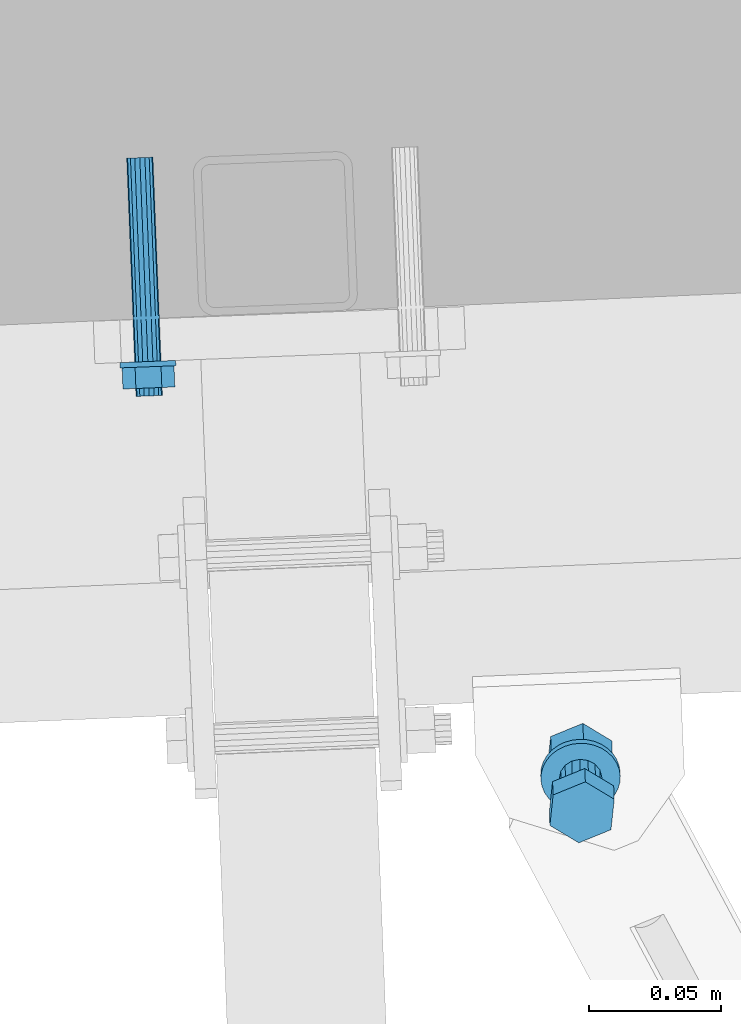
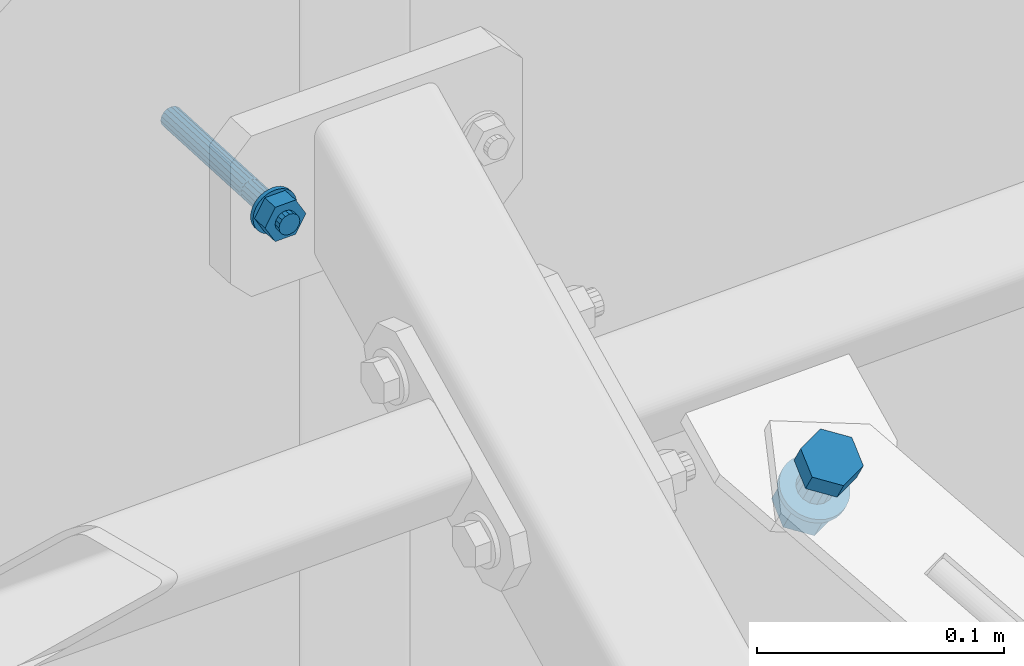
# One storey, part 259 of 288: 2 mechanical fasteners.
"""IFC2X3 building model written with IfcOpenShell, lengths in millimetres."""

import ifcopenshell
import ifcopenshell.guid

model = None  # the IFC model being written
_history = None  # IfcOwnerHistory: only IFC2X3 demands one
_inside = {}  # id of a spatial element -> (the spatial element, [elements in it])
_under = {}  # id of a project, library or spatial element -> (it, [spatial elements below it])
_declared = {}  # id of a project -> (the project, [libraries it declares])
_typed = {}  # id of a type object -> (the type object, [elements of that type])
_made_of = {}  # id of a material, layer set ... -> (it, [elements and type objects made of it])


def new_model(schema):
    """Start an empty IFC model of exactly this schema.

    Asked for "IFC4X3", IfcOpenShell would pick the latest addendum, in which some entities
    have other attributes; the version numbers below select the first issue.
    IFC2X3 requires an IfcOwnerHistory on every rooted entity: one is made here for all.
    """
    global model, _history
    if schema == "IFC4X3":
        model = ifcopenshell.file(schema_version=(4, 3, 0, 0))
    else:
        model = ifcopenshell.file(schema=schema)
    _inside.clear()
    _under.clear()
    _declared.clear()
    _typed.clear()
    _made_of.clear()
    _history = None
    if model.schema == "IFC2X3":
        org = make("IfcOrganization", Name="unknown")
        user = make(
            "IfcPersonAndOrganization",
            ThePerson=make("IfcPerson", FamilyName="unknown"),
            TheOrganization=org,
        )
        app = make(
            "IfcApplication",
            ApplicationDeveloper=org,
            Version="unknown",
            ApplicationFullName="unknown",
            ApplicationIdentifier="unknown",
        )
        _history = make(
            "IfcOwnerHistory",
            OwningUser=user,
            OwningApplication=app,
            ChangeAction="ADDED",
            CreationDate=0,
        )
    return model


def make(cls, **values):
    """One entity of the class cls with the attributes given. An attribute that is None is left unset."""
    return model.create_entity(
        cls, **{name: value for name, value in values.items() if value is not None}
    )


def entity(cls, *values):
    """Any entity or typed value of the class cls, its attributes in the order of the schema. None: left unset."""
    e = model.create_entity(cls)
    for i, value in enumerate(values):
        if value is not None:
            e[i] = value
    return e


def rooted(cls, **values):
    """An entity with a GlobalId (a new one), such as an element, a storey or a relation."""
    return make(cls, GlobalId=ifcopenshell.guid.new(), OwnerHistory=_history, **values)


def si_unit(unit_type, name, prefix=None):
    """IfcSIUnit, for example si_unit("LENGTHUNIT", "METRE", prefix="MILLI")."""
    return make("IfcSIUnit", UnitType=unit_type, Prefix=prefix, Name=name)


def converted_unit(unit_type, name, factor, base, dimensions=None, offset=None):
    """IfcConversionBasedUnit, such as the inch: factor (a typed value) times the base unit."""
    return make(
        "IfcConversionBasedUnit"
        if offset is None
        else "IfcConversionBasedUnitWithOffset",
        ConversionOffset=offset,
        Dimensions=None
        if dimensions is None
        else entity("IfcDimensionalExponents", *dimensions),
        UnitType=unit_type,
        Name=name,
        ConversionFactor=make(
            "IfcMeasureWithUnit", ValueComponent=factor, UnitComponent=base
        ),
    )


def assignment(units):
    """IfcUnitAssignment: the units of a project."""
    return None if units is None else make("IfcUnitAssignment", Units=units)


def point(xyz):
    """IfcCartesianPoint."""
    return None if xyz is None else make("IfcCartesianPoint", Coordinates=xyz)


def direction(xyz):
    """IfcDirection."""
    return None if xyz is None else make("IfcDirection", DirectionRatios=xyz)


def frame(location, z_axis=None, x_axis=None):
    """IfcAxis2Placement3D, a coordinate frame: its origin and axes. An axis left out is left unset."""
    return make(
        "IfcAxis2Placement3D",
        Location=point(location),
        Axis=direction(z_axis),
        RefDirection=direction(x_axis),
    )


def origin_with_axes():
    """The frame at (0, 0, 0) with the z axis (0, 0, 1) and the x axis (1, 0, 0) written out."""
    return frame((0.0, 0.0, 0.0), z_axis=(0.0, 0.0, 1.0), x_axis=(1.0, 0.0, 0.0))


def place(relative_to, where):
    """IfcLocalPlacement: puts the frame where relative to a parent placement (None: the world)."""
    return make(
        "IfcLocalPlacement", PlacementRelTo=relative_to, RelativePlacement=where
    )


def context(
    kind, dimensions, precision=None, world=None, true_north=None, identifier=None
):
    """IfcGeometricRepresentationContext, for example the 3D "Model" context."""
    return make(
        "IfcGeometricRepresentationContext",
        ContextIdentifier=identifier,
        ContextType=kind,
        CoordinateSpaceDimension=dimensions,
        Precision=precision,
        WorldCoordinateSystem=world,
        TrueNorth=true_north,
    )


def project(units=None, contexts=None):
    """IfcProject with its units and contexts."""
    return rooted(
        "IfcProject",
        Name="project",
        RepresentationContexts=contexts,
        UnitsInContext=assignment(units),
    )


def spatial(cls, under=None, at=None, **own):
    """A site, building, storey or space (cls), placed at a placement, below another one or the project."""
    s = rooted(cls, ObjectPlacement=at, **own)
    if under is not None:
        _under.setdefault(under.id(), (under, []))[1].append(s)
    return s


def faces_of(points, faces, orient=None, outer=None):
    """IfcFace entities. A face is a list of loops; a loop is a list of indices into points, from 0.

    orient and outer hold one flag for each loop. By default every Orientation is true, the
    first loop of a face is its IfcFaceOuterBound and the others are IfcFaceBound.
    """
    made = []
    for i, loops in enumerate(faces):
        bounds = []
        for j, loop in enumerate(loops):
            is_outer = j == 0 if outer is None else outer[i][j]
            bounds.append(
                make(
                    "IfcFaceOuterBound" if is_outer else "IfcFaceBound",
                    Bound=make("IfcPolyLoop", Polygon=[points[k] for k in loop]),
                    Orientation=True if orient is None else orient[i][j],
                )
            )
        made.append(make("IfcFace", Bounds=bounds))
    return made


def faceted_brep(points, faces, orient=None, outer=None, voids=None):
    """IfcFacetedBrep: a solid bounded by flat faces; with voids (closed shells), ...WithVoids."""
    shared = [point(p) for p in points]
    hull = make("IfcClosedShell", CfsFaces=faces_of(shared, faces, orient, outer))
    if voids is None:
        return make("IfcFacetedBrep", Outer=hull)
    return make(
        "IfcFacetedBrepWithVoids",
        Outer=hull,
        Voids=[
            make(cls, CfsFaces=faces_of(shared, fs, o, b)) for cls, fs, o, b in voids
        ],
    )


def shape(context_of_items, identifier, shape_type, items):
    """IfcShapeRepresentation: the items that make up one representation, for example the "Body"."""
    return make(
        "IfcShapeRepresentation",
        ContextOfItems=context_of_items,
        RepresentationIdentifier=identifier,
        RepresentationType=shape_type,
        Items=items,
    )


def made_of(thing, what):
    """Note that an element or type object is made of a material, layer set ...; save() writes the relation."""
    if what is not None:
        _made_of.setdefault(what.id(), (what, []))[1].append(thing)
    return thing


def element(
    cls,
    number,
    at=None,
    inside=None,
    cuts=None,
    type_object=None,
    material=None,
    context=None,
    identifier="Body",
    shape_type=None,
    held_by="IfcProductDefinitionShape",
    body=None,
    shapes=None,
    **own,
):
    """One element of the class cls, such as IfcWall. Its Tag is "e" and its number.

    at: its placement. inside: the storey or other place that contains it. cuts: it is an
    opening in that element (IfcRelVoidsElement). A single representation is given by context,
    identifier, shape_type and body (its items); several are given by shapes. held_by: the class
    of the entity that holds the representations. save() writes the other relations.
    """
    e = rooted(cls, Tag="e%d" % number, ObjectPlacement=at, **own)
    if body is not None:
        shapes = [shape(context, identifier, shape_type, body)]
    if shapes is not None:
        e.Representation = make(held_by, Representations=shapes)
    if inside is not None:
        _inside.setdefault(inside.id(), (inside, []))[1].append(e)
    if cuts is not None:
        rooted(
            "IfcRelVoidsElement", RelatingBuildingElement=cuts, RelatedOpeningElement=e
        )
    if type_object is not None:
        _typed.setdefault(type_object.id(), (type_object, []))[1].append(e)
    return made_of(e, material)


def aggregate(whole, parts):
    """IfcRelAggregates: a whole, such as a stair, and the parts it consists of."""
    return rooted("IfcRelAggregates", RelatingObject=whole, RelatedObjects=parts)


def save(model, path):
    """Write the relations noted so far, then the file.

    IfcRelAggregates (storeys below a building ...), IfcRelContainedInSpatialStructure (elements
    in a storey), IfcRelDefinesByType, IfcRelAssociatesMaterial and IfcRelDeclares: one each for
    every whole, place, type object, material and project.
    """
    for whole, parts in _under.values():
        aggregate(whole, parts)
    for where, things in _inside.values():
        rooted(
            "IfcRelContainedInSpatialStructure",
            RelatedElements=things,
            RelatingStructure=where,
        )
    for kind, things in _typed.values():
        rooted("IfcRelDefinesByType", RelatedObjects=things, RelatingType=kind)
    for what, things in _made_of.values():
        rooted("IfcRelAssociatesMaterial", RelatedObjects=things, RelatingMaterial=what)
    for by, libraries in _declared.values():
        rooted("IfcRelDeclares", RelatingContext=by, RelatedDefinitions=libraries)
    model.write(path)


model = new_model("IFC2X3")

# Units and contexts
model_context = context("Model", 3, precision=1e-09, world=origin_with_axes())
ifc_project = project(units=[si_unit("LENGTHUNIT", "METRE", prefix="MILLI"), si_unit("AREAUNIT", "SQUARE_METRE"), si_unit("VOLUMEUNIT", "CUBIC_METRE"), converted_unit("PLANEANGLEUNIT", "DEGREE", entity("IfcPlaneAngleMeasure", 0.01745329), si_unit("PLANEANGLEUNIT", "RADIAN"), dimensions=[0, 0, 0, 0, 0, 0, 0])], contexts=[model_context])

# Site, building, storey
site_placement = place(None, origin_with_axes())
site = spatial("IfcSite", under=ifc_project, at=site_placement, Name="Remont ?wietlik?w nad MC w NCPP w Opolu", CompositionType="ELEMENT")
building_placement = place(site_placement, origin_with_axes())
building = spatial("IfcBuilding", under=site, at=building_placement, Name="Konstrukcja 1", CompositionType="ELEMENT")
storey_placement = place(building_placement, origin_with_axes())
storey = spatial("IfcBuildingStorey", under=building, at=storey_placement, Name="Default Storey", CompositionType="ELEMENT", Elevation=0.0)

# Mechanical fasteners
mechanical_fastener_1_placement = place(None, origin_with_axes())
element("IfcMechanicalFastener", 1, at=mechanical_fastener_1_placement, inside=storey, ObjectType="Anchor_Bolt", NominalDiameter=10.0, NominalLength=90.0, context=model_context, shape_type="Brep", body=[
    faceted_brep([(2305.701875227, 15632.396267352, 1297.284965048), (2305.623089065, 15634.394714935, 1297.284965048), (2303.576230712, 15634.314020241, 1297.083210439), (2303.655016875, 15632.315572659, 1297.083210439), (2301.608031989, 15634.2364266, 1296.485700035), (2301.686818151, 15632.237979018, 1296.485700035), (2299.794129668, 15634.164915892, 1295.515395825), (2299.87291583, 15632.166468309, 1295.515395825), (2298.204230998, 15634.102236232, 1294.209586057), (2298.28301716, 15632.103788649, 1294.209586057), (2296.899434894, 15634.050796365, 1292.618452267), (2296.978221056, 15632.052348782, 1292.618452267), (2295.929883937, 15634.012573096, 1290.803140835), (2296.0086701, 15632.014125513, 1290.803140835), (2295.332837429, 15633.989035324, 1288.83341316), (2295.411623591, 15631.990587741, 1288.83341316), (2295.13123953, 15633.981087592, 1286.784964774), (2295.210025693, 15631.98264001, 1286.784964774), (2295.332837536, 15633.989035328, 1284.736516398), (2295.411623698, 15631.990587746, 1284.736516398), (2295.929884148, 15634.012573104, 1282.766788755), (2296.00867031, 15632.014125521, 1282.766788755), (2296.899435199, 15634.050796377, 1280.951477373), (2296.978221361, 15632.052348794, 1280.951477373), (2298.204231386, 15634.102236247, 1279.360343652), (2298.283017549, 15632.103788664, 1279.360343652), (2299.794130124, 15634.16491591, 1278.054533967), (2299.872916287, 15632.166468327, 1278.054533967), (2301.608032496, 15634.23642662, 1277.084229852), (2301.686818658, 15632.237979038, 1277.084229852), (2303.576231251, 15634.314020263, 1276.486719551), (2303.655017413, 15632.31557268, 1276.486719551), (2305.623089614, 15634.394714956, 1276.284965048), (2305.701875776, 15632.396267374, 1276.284965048), (2307.669947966, 15634.475409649, 1276.486719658), (2307.748734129, 15632.476962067, 1276.486719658), (2309.638146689, 15634.553003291, 1277.084230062), (2309.716932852, 15632.554555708, 1277.084230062), (2311.452049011, 15634.624513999, 1278.054534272), (2311.530835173, 15632.626066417, 1278.054534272), (2313.04194768, 15634.687193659, 1279.36034404), (2313.120733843, 15632.688746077, 1279.36034404), (2314.346743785, 15634.738633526, 1280.95147783), (2314.425529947, 15632.740185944, 1280.95147783), (2315.316294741, 15634.776856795, 1282.766789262), (2315.395080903, 15632.778409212, 1282.766789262), (2315.913341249, 15634.800394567, 1284.736516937), (2315.992127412, 15632.801946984, 1284.736516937), (2316.114939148, 15634.808342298, 1286.784965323), (2316.193725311, 15632.809894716, 1286.784965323), (2315.913341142, 15634.800394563, 1288.833413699), (2315.992127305, 15632.80194698, 1288.833413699), (2315.316294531, 15634.776856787, 1290.803141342), (2315.395080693, 15632.778409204, 1290.803141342), (2314.34674348, 15634.738633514, 1292.618452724), (2314.425529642, 15632.740185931, 1292.618452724), (2313.041947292, 15634.687193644, 1294.209586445), (2313.120733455, 15632.688746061, 1294.209586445), (2311.452048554, 15634.624513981, 1295.51539613), (2311.530834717, 15632.626066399, 1295.51539613), (2309.638146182, 15634.553003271, 1296.485700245), (2309.716932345, 15632.554555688, 1296.485700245), (2307.669947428, 15634.475409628, 1297.083210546), (2307.74873359, 15632.476962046, 1297.083210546)], [[[0, 1, 2, 3]], [[3, 2, 4, 5]], [[5, 4, 6, 7]], [[7, 6, 8, 9]], [[9, 8, 10, 11]], [[11, 10, 12, 13]], [[13, 12, 14, 15]], [[15, 14, 16, 17]], [[17, 16, 18, 19]], [[19, 18, 20, 21]], [[21, 20, 22, 23]], [[23, 22, 24, 25]], [[25, 24, 26, 27]], [[27, 26, 28, 29]], [[29, 28, 30, 31]], [[31, 30, 32, 33]], [[33, 32, 34, 35]], [[35, 34, 36, 37]], [[37, 36, 38, 39]], [[39, 38, 40, 41]], [[41, 40, 42, 43]], [[43, 42, 44, 45]], [[45, 44, 46, 47]], [[47, 46, 48, 49]], [[49, 48, 50, 51]], [[51, 50, 52, 53]], [[53, 52, 54, 55]], [[55, 54, 56, 57]], [[57, 56, 58, 59]], [[59, 58, 60, 61]], [[61, 60, 62, 63]], [[63, 62, 1, 0]], [[0, 3, 5, 7, 9, 11, 13, 15, 17, 19, 21, 23, 25, 27, 29, 31, 33, 35, 37, 39, 41, 43, 45, 47, 49, 51, 53, 55, 57, 59, 61, 63]], [[1, 62, 60, 58, 56, 54, 52, 50, 48, 46, 44, 42, 40, 38, 36, 34, 32, 30, 28, 26, 24, 22, 20, 18, 16, 14, 12, 10, 8, 6, 4, 2]]]),
    faceted_brep([(2300.805679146, 15632.203241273, 1278.297915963), (2301.120823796, 15624.209450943, 1278.297915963), (2296.224626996, 15624.016424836, 1286.784964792), (2295.909482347, 15632.010215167, 1286.784964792), (2301.120823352, 15624.209450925, 1295.272013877), (2300.805678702, 15632.203241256, 1295.272013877), (2310.913216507, 15624.595503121, 1295.272014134), (2310.598071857, 15632.589293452, 1295.272014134), (2315.809413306, 15624.788529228, 1286.784965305), (2315.494268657, 15632.782319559, 1286.784965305), (2310.913216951, 15624.595503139, 1278.29791622), (2310.598072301, 15632.58929347, 1278.29791622)], [[[0, 1, 2, 3]], [[3, 2, 4, 5]], [[5, 4, 6, 7]], [[7, 6, 8, 9]], [[9, 8, 10, 11]], [[11, 10, 1, 0]], [[4, 2, 1, 10, 8, 6]], [[0, 3, 5, 7, 9, 11]]]),
    faceted_brep([(2306.135199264, 15621.404805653, 1291.784965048), (2306.017020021, 15624.402477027, 1291.784965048), (2304.10508808, 15624.32710163, 1291.404362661), (2304.223267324, 15621.329430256, 1291.404362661), (2302.484230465, 15624.263201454, 1290.320498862), (2302.602409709, 15621.26553008, 1290.320498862), (2301.401208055, 15624.220504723, 1288.698382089), (2301.519387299, 15621.222833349, 1288.698382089), (2301.020901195, 15624.205511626, 1286.784964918), (2301.139080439, 15621.207840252, 1286.784964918), (2301.401208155, 15624.220504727, 1284.871547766), (2301.519387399, 15621.222833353, 1284.871547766), (2302.48423065, 15624.263201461, 1283.24943105), (2302.602409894, 15621.265530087, 1283.24943105), (2304.105088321, 15624.327101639, 1282.165567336), (2304.223267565, 15621.329430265, 1282.165567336), (2306.017020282, 15624.402477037, 1281.784965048), (2306.135199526, 15621.404805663, 1281.784965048), (2307.928952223, 15624.477852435, 1282.165567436), (2308.047131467, 15621.480181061, 1282.165567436), (2309.549809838, 15624.54175261, 1283.249431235), (2309.667989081, 15621.544081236, 1283.249431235), (2310.632832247, 15624.584449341, 1284.871548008), (2310.751011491, 15621.586777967, 1284.871548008), (2311.013139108, 15624.599442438, 1286.784965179), (2311.131318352, 15621.601771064, 1286.784965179), (2310.632832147, 15624.584449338, 1288.698382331), (2310.751011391, 15621.586777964, 1288.698382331), (2309.549809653, 15624.541752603, 1290.320499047), (2309.667988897, 15621.544081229, 1290.320499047), (2307.928951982, 15624.477852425, 1291.404362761), (2308.047131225, 15621.480181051, 1291.404362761)], [[[0, 1, 2, 3]], [[3, 2, 4, 5]], [[5, 4, 6, 7]], [[7, 6, 8, 9]], [[9, 8, 10, 11]], [[11, 10, 12, 13]], [[13, 12, 14, 15]], [[15, 14, 16, 17]], [[17, 16, 18, 19]], [[19, 18, 20, 21]], [[21, 20, 22, 23]], [[23, 22, 24, 25]], [[25, 24, 26, 27]], [[27, 26, 28, 29]], [[29, 28, 30, 31]], [[31, 30, 1, 0]], [[0, 3, 5, 7, 9, 11, 13, 15, 17, 19, 21, 23, 25, 27, 29, 31]], [[1, 30, 28, 26, 24, 22, 20, 18, 16, 14, 12, 10, 8, 6, 4, 2]]]),
    faceted_brep([(2305.623089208, 15634.39471494, 1291.784965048), (2304.992799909, 15650.382295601, 1291.784965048), (2303.080867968, 15650.306920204, 1291.404362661), (2303.711157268, 15634.319339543, 1291.404362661), (2301.460010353, 15650.243020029, 1290.320498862), (2302.090299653, 15634.255439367, 1290.320498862), (2300.376987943, 15650.200323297, 1288.698382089), (2301.007277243, 15634.212742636, 1288.698382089), (2299.996681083, 15650.1853302, 1286.784964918), (2300.626970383, 15634.197749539, 1286.784964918), (2300.376988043, 15650.200323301, 1284.871547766), (2301.007277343, 15634.21274264, 1284.871547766), (2301.460010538, 15650.243020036, 1283.24943105), (2302.090299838, 15634.255439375, 1283.24943105), (2303.080868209, 15650.306920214, 1282.165567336), (2303.711157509, 15634.319339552, 1282.165567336), (2304.99280017, 15650.382295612, 1281.784965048), (2305.62308947, 15634.394714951, 1281.784965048), (2306.904732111, 15650.457671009, 1282.165567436), (2307.535021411, 15634.470090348, 1282.165567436), (2308.525589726, 15650.521571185, 1283.249431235), (2309.155879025, 15634.533990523, 1283.249431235), (2309.608612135, 15650.564267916, 1284.871548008), (2310.238901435, 15634.576687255, 1284.871548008), (2309.988918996, 15650.579261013, 1286.784965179), (2310.619208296, 15634.591680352, 1286.784965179), (2309.608612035, 15650.564267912, 1288.698382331), (2310.238901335, 15634.576687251, 1288.698382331), (2308.525589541, 15650.521571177, 1290.320499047), (2309.155878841, 15634.533990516, 1290.320499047), (2306.904731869, 15650.457671, 1291.404362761), (2307.535021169, 15634.470090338, 1291.404362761)], [[[0, 1, 2, 3]], [[3, 2, 4, 5]], [[5, 4, 6, 7]], [[7, 6, 8, 9]], [[9, 8, 10, 11]], [[11, 10, 12, 13]], [[13, 12, 14, 15]], [[15, 14, 16, 17]], [[17, 16, 18, 19]], [[19, 18, 20, 21]], [[21, 20, 22, 23]], [[23, 22, 24, 25]], [[25, 24, 26, 27]], [[27, 26, 28, 29]], [[29, 28, 30, 31]], [[31, 30, 1, 0]], [[0, 3, 5, 7, 9, 11, 13, 15, 17, 19, 21, 23, 25, 27, 29, 31]], [[1, 30, 28, 26, 24, 22, 20, 18, 16, 14, 12, 10, 8, 6, 4, 2]]]),
    faceted_brep([(2304.992799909, 15650.382295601, 1291.784965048), (2304.953406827, 15651.381519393, 1291.784965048), (2303.978712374, 15651.343093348, 1291.688891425), (2304.018105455, 15650.343869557, 1291.688891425), (2303.041474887, 15651.306143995, 1291.404362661), (2303.080867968, 15650.306920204, 1291.404362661), (2302.177711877, 15651.272091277, 1290.942313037), (2302.217104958, 15650.272867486, 1290.942313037), (2301.420617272, 15651.24224382, 1290.320498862), (2301.460010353, 15650.243020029, 1290.320498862), (2300.799285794, 15651.217748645, 1289.562816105), (2300.838678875, 15650.218524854, 1289.562816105), (2300.337594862, 15651.199547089, 1288.698382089), (2300.376987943, 15650.200323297, 1288.698382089), (2300.053287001, 15651.188338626, 1287.76041653), (2300.092680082, 15650.189114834, 1287.76041653), (2299.957288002, 15651.184553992, 1286.784964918), (2299.996681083, 15650.1853302, 1286.784964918), (2300.053287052, 15651.188338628, 1285.80951331), (2300.092680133, 15650.189114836, 1285.80951331), (2300.337594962, 15651.199547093, 1284.871547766), (2300.376988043, 15650.200323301, 1284.871547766), (2300.799285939, 15651.217748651, 1284.007113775), (2300.83867902, 15650.21852486, 1284.007113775), (2301.420617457, 15651.242243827, 1283.24943105), (2301.460010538, 15650.243020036, 1283.24943105), (2302.177712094, 15651.272091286, 1282.627616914), (2302.217105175, 15650.272867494, 1282.627616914), (2303.041475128, 15651.306144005, 1282.165567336), (2303.080868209, 15650.306920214, 1282.165567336), (2303.97871263, 15651.343093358, 1281.881038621), (2304.018105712, 15650.343869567, 1281.881038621), (2304.953407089, 15651.381519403, 1281.784965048), (2304.99280017, 15650.382295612, 1281.784965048), (2305.928101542, 15651.419945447, 1281.881038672), (2305.967494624, 15650.420721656, 1281.881038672), (2306.86533903, 15651.4568948, 1282.165567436), (2306.904732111, 15650.457671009, 1282.165567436), (2307.72910204, 15651.490947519, 1282.62761706), (2307.768495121, 15650.491723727, 1282.62761706), (2308.486196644, 15651.520794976, 1283.249431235), (2308.525589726, 15650.521571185, 1283.249431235), (2309.107528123, 15651.545290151, 1284.007113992), (2309.146921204, 15650.546066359, 1284.007113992), (2309.569219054, 15651.563491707, 1284.871548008), (2309.608612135, 15650.564267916, 1284.871548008), (2309.853526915, 15651.57470017, 1285.809513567), (2309.892919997, 15650.575476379, 1285.809513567), (2309.949525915, 15651.578484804, 1286.784965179), (2309.988918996, 15650.579261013, 1286.784965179), (2309.853526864, 15651.574700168, 1287.760416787), (2309.892919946, 15650.575476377, 1287.760416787), (2309.569218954, 15651.563491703, 1288.698382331), (2309.608612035, 15650.564267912, 1288.698382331), (2309.107527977, 15651.545290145, 1289.562816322), (2309.146921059, 15650.546066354, 1289.562816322), (2308.48619646, 15651.520794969, 1290.320499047), (2308.525589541, 15650.521571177, 1290.320499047), (2307.729101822, 15651.49094751, 1290.942313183), (2307.768494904, 15650.491723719, 1290.942313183), (2306.865338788, 15651.456894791, 1291.404362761), (2306.904731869, 15650.457671, 1291.404362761), (2305.928101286, 15651.419945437, 1291.688891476), (2305.967494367, 15650.420721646, 1291.688891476)], [[[0, 1, 2, 3]], [[3, 2, 4, 5]], [[5, 4, 6, 7]], [[7, 6, 8, 9]], [[9, 8, 10, 11]], [[11, 10, 12, 13]], [[13, 12, 14, 15]], [[15, 14, 16, 17]], [[17, 16, 18, 19]], [[19, 18, 20, 21]], [[21, 20, 22, 23]], [[23, 22, 24, 25]], [[25, 24, 26, 27]], [[27, 26, 28, 29]], [[29, 28, 30, 31]], [[31, 30, 32, 33]], [[33, 32, 34, 35]], [[35, 34, 36, 37]], [[37, 36, 38, 39]], [[39, 38, 40, 41]], [[41, 40, 42, 43]], [[43, 42, 44, 45]], [[45, 44, 46, 47]], [[47, 46, 48, 49]], [[49, 48, 50, 51]], [[51, 50, 52, 53]], [[53, 52, 54, 55]], [[55, 54, 56, 57]], [[57, 56, 58, 59]], [[59, 58, 60, 61]], [[61, 60, 62, 63]], [[63, 62, 1, 0]], [[0, 3, 5, 7, 9, 11, 13, 15, 17, 19, 21, 23, 25, 27, 29, 31, 33, 35, 37, 39, 41, 43, 45, 47, 49, 51, 53, 55, 57, 59, 61, 63]], [[1, 62, 60, 58, 56, 54, 52, 50, 48, 46, 44, 42, 40, 38, 36, 34, 32, 30, 28, 26, 24, 22, 20, 18, 16, 14, 12, 10, 8, 6, 4, 2]]]),
    faceted_brep([(2304.953406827, 15651.381519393, 1291.784965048), (2302.589821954, 15711.334946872, 1291.784965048), (2300.677890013, 15711.259571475, 1291.404362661), (2303.041474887, 15651.306143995, 1291.404362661), (2299.057032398, 15711.195671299, 1290.320498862), (2301.420617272, 15651.24224382, 1290.320498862), (2297.974009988, 15711.152974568, 1288.698382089), (2300.337594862, 15651.199547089, 1288.698382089), (2297.593703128, 15711.137981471, 1286.784964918), (2299.957288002, 15651.184553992, 1286.784964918), (2297.974010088, 15711.152974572, 1284.871547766), (2300.337594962, 15651.199547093, 1284.871547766), (2299.057032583, 15711.195671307, 1283.24943105), (2301.420617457, 15651.242243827, 1283.24943105), (2300.677890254, 15711.259571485, 1282.165567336), (2303.041475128, 15651.306144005, 1282.165567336), (2302.589822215, 15711.334946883, 1281.784965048), (2304.953407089, 15651.381519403, 1281.784965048), (2304.501754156, 15711.41032228, 1282.165567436), (2306.86533903, 15651.4568948, 1282.165567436), (2306.122611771, 15711.474222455, 1283.249431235), (2308.486196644, 15651.520794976, 1283.249431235), (2307.20563418, 15711.516919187, 1284.871548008), (2309.569219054, 15651.563491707, 1284.871548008), (2307.585941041, 15711.531912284, 1286.784965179), (2309.949525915, 15651.578484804, 1286.784965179), (2307.20563408, 15711.516919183, 1288.698382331), (2309.569218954, 15651.563491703, 1288.698382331), (2306.122611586, 15711.474222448, 1290.320499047), (2308.48619646, 15651.520794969, 1290.320499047), (2304.501753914, 15711.41032227, 1291.404362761), (2306.865338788, 15651.456894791, 1291.404362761)], [[[0, 1, 2, 3]], [[3, 2, 4, 5]], [[5, 4, 6, 7]], [[7, 6, 8, 9]], [[9, 8, 10, 11]], [[11, 10, 12, 13]], [[13, 12, 14, 15]], [[15, 14, 16, 17]], [[17, 16, 18, 19]], [[19, 18, 20, 21]], [[21, 20, 22, 23]], [[23, 22, 24, 25]], [[25, 24, 26, 27]], [[27, 26, 28, 29]], [[29, 28, 30, 31]], [[31, 30, 1, 0]], [[0, 3, 5, 7, 9, 11, 13, 15, 17, 19, 21, 23, 25, 27, 29, 31]], [[1, 30, 28, 26, 24, 22, 20, 18, 16, 14, 12, 10, 8, 6, 4, 2]]]),
])
mechanical_fastener_2_placement = place(None, origin_with_axes())
element("IfcMechanicalFastener", 2, at=mechanical_fastener_2_placement, inside=storey, ObjectType="Bolt#1", NominalDiameter=16.0, NominalLength=40.0, context=model_context, shape_type="Brep", body=[
    faceted_brep([(2480.419676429, 15457.677540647, 1205.489921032), (2480.203727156, 15462.712677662, 1196.852747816), (2481.444672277, 15474.23122603, 1203.536588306), (2481.66062155, 15469.196089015, 1212.173761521), (2470.534731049, 15480.793729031, 1207.635046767), (2470.750680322, 15475.758592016, 1216.272219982), (2458.383844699, 15475.837683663, 1205.049664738), (2458.599793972, 15470.802546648, 1213.686837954), (2457.142899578, 15464.319135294, 1198.365824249), (2457.358848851, 15459.283998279, 1207.002997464), (2468.052840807, 15457.756632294, 1194.267365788), (2468.26879008, 15452.721495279, 1202.904539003)], [[[0, 1, 2, 3]], [[3, 2, 4, 5]], [[5, 4, 6, 7]], [[7, 6, 8, 9]], [[9, 8, 10, 11]], [[11, 10, 1, 0]], [[3, 5, 7, 9, 11, 0]], [[2, 1, 10, 8, 6, 4]]]),
    faceted_brep([(2465.609262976, 15483.575347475, 1190.855191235), (2465.954781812, 15475.519128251, 1204.674668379), (2468.990222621, 15476.178248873, 1204.983017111), (2468.644703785, 15484.234468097, 1191.163539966), (2472.071878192, 15475.786439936, 1204.677559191), (2471.726359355, 15483.84265916, 1190.858082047), (2474.730594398, 15474.4033508, 1203.80479782), (2474.385075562, 15482.459570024, 1189.985320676), (2476.5616058, 15472.239544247, 1202.497603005), (2476.216086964, 15480.295763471, 1188.67812586), (2477.28615751, 15469.62444021, 1200.954983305), (2476.940638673, 15477.680659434, 1187.135506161), (2476.793943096, 15466.956164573, 1199.411788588), (2476.44842426, 15475.012383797, 1185.592311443), (2475.159897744, 15464.640938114, 1198.102956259), (2474.814378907, 15472.697157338, 1184.283479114), (2472.632790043, 15463.031233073, 1197.227744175), (2472.287271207, 15471.087452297, 1183.408267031), (2469.597349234, 15462.372112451, 1196.919395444), (2469.251830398, 15470.428331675, 1183.099918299), (2466.515693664, 15462.763921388, 1197.224853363), (2466.170174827, 15470.820140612, 1183.405376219), (2463.856977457, 15464.147010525, 1198.097614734), (2463.51145862, 15472.203229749, 1184.27813759), (2462.025966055, 15466.310817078, 1199.40480955), (2461.680447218, 15474.367036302, 1185.585332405), (2461.301414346, 15468.925921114, 1200.947429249), (2460.955895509, 15476.982140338, 1187.127952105), (2461.793628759, 15471.594196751, 1202.490623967), (2461.448109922, 15479.650415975, 1188.671146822), (2463.427674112, 15473.90942321, 1203.799456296), (2463.082155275, 15481.965642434, 1189.979979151)], [[[0, 1, 2, 3]], [[3, 2, 4, 5]], [[5, 4, 6, 7]], [[7, 6, 8, 9]], [[9, 8, 10, 11]], [[11, 10, 12, 13]], [[13, 12, 14, 15]], [[15, 14, 16, 17]], [[17, 16, 18, 19]], [[19, 18, 20, 21]], [[21, 20, 22, 23]], [[23, 22, 24, 25]], [[25, 24, 26, 27]], [[27, 26, 28, 29]], [[29, 28, 30, 31]], [[31, 30, 1, 0]], [[2, 1, 30, 28, 26, 24, 22, 20, 18, 16, 14, 12, 10, 8, 6, 4]], [[31, 0, 3, 5, 7, 9, 11, 13, 15, 17, 19, 21, 23, 25, 27, 29]]]),
    faceted_brep([(2462.622849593, 15490.54934272, 1191.522068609), (2462.687634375, 15489.038801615, 1194.113220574), (2465.466458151, 15489.898194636, 1194.544736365), (2465.401673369, 15491.40873574, 1191.9535844), (2468.379085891, 15490.274652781, 1194.691374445), (2468.314301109, 15491.785193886, 1192.100222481), (2471.313586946, 15490.153708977, 1194.547499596), (2471.248802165, 15491.664250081, 1191.956347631), (2474.157190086, 15489.540011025, 1194.118640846), (2474.092405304, 15491.050552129, 1191.527488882), (2476.800617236, 15488.457142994, 1193.421278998), (2476.735832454, 15489.967684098, 1190.830127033), (2479.142282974, 15486.946718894, 1192.482213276), (2479.077498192, 15488.457259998, 1189.891061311), (2481.092198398, 15485.066783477, 1191.337531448), (2481.027413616, 15486.577324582, 1188.746379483), (2482.575429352, 15482.889581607, 1190.031222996), (2482.51064457, 15484.400122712, 1187.440071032), (2483.534976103, 15480.498781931, 1188.613488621), (2483.470191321, 15482.009323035, 1186.022336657), (2483.933963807, 15477.986261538, 1187.13881106), (2483.869179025, 15479.496802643, 1184.547659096), (2483.75705959, 15475.44857518, 1185.663861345), (2483.692274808, 15476.959116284, 1183.07270938), (2483.011061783, 15472.983244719, 1184.245320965), (2482.946277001, 15474.493785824, 1181.654169), (2481.724638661, 15470.685011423, 1182.937703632), (2481.65985388, 15472.195552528, 1180.346551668), (2479.947226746, 15468.642195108, 1181.791260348), (2479.882441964, 15470.152736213, 1179.200108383), (2477.747130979, 15466.93330006, 1180.850048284), (2477.682346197, 15468.443841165, 1178.258896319), (2475.208899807, 15465.623998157, 1180.150237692), (2475.144115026, 15467.134539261, 1177.559085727), (2472.430076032, 15464.764605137, 1179.7187219), (2472.36529125, 15466.275146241, 1177.127569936), (2469.517448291, 15464.388146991, 1179.57208382), (2469.452663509, 15465.898688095, 1176.980931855), (2466.582947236, 15464.509090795, 1179.715958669), (2466.518162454, 15466.0196319, 1177.124806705), (2463.739344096, 15465.122788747, 1180.144817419), (2463.674559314, 15466.633329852, 1177.553665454), (2461.095916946, 15466.205656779, 1180.842179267), (2461.031132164, 15467.716197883, 1178.251027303), (2458.754251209, 15467.716080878, 1181.78124499), (2458.689466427, 15469.226621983, 1179.190093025), (2456.804335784, 15469.596016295, 1182.925926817), (2456.739551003, 15471.1065574, 1180.334774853), (2455.32110483, 15471.773218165, 1184.232235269), (2455.256320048, 15473.28375927, 1181.641083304), (2454.361558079, 15474.164017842, 1185.649969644), (2454.296773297, 15475.674558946, 1183.058817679), (2453.962570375, 15476.676538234, 1187.124647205), (2453.897785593, 15478.187079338, 1184.53349524), (2454.139474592, 15479.214224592, 1188.599596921), (2454.07468981, 15480.724765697, 1186.008444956), (2454.8854724, 15481.679555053, 1190.0181373), (2454.820687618, 15483.190096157, 1187.426985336), (2456.171895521, 15483.977788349, 1191.325754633), (2456.107110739, 15485.488329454, 1188.734602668), (2457.949307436, 15486.020604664, 1192.472197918), (2457.884522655, 15487.531145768, 1189.881045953), (2460.149403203, 15487.729499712, 1193.413409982), (2460.084618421, 15489.240040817, 1190.822258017)], [[[0, 1, 2, 3]], [[3, 2, 4, 5]], [[5, 4, 6, 7]], [[7, 6, 8, 9]], [[9, 8, 10, 11]], [[11, 10, 12, 13]], [[13, 12, 14, 15]], [[15, 14, 16, 17]], [[17, 16, 18, 19]], [[19, 18, 20, 21]], [[21, 20, 22, 23]], [[23, 22, 24, 25]], [[25, 24, 26, 27]], [[27, 26, 28, 29]], [[29, 28, 30, 31]], [[31, 30, 32, 33]], [[33, 32, 34, 35]], [[35, 34, 36, 37]], [[37, 36, 38, 39]], [[39, 38, 40, 41]], [[41, 40, 42, 43]], [[43, 42, 44, 45]], [[45, 44, 46, 47]], [[47, 46, 48, 49]], [[49, 48, 50, 51]], [[51, 50, 52, 53]], [[53, 52, 54, 55]], [[55, 54, 56, 57]], [[57, 56, 58, 59]], [[59, 58, 60, 61]], [[61, 60, 62, 63]], [[63, 62, 1, 0]], [[2, 1, 62, 60, 58, 56, 54, 52, 50, 48, 46, 44, 42, 40, 38, 36, 34, 32, 30, 28, 26, 24, 22, 20, 18, 16, 14, 12, 10, 8, 6, 4]], [[63, 0, 3, 5, 7, 9, 11, 13, 15, 17, 19, 21, 23, 25, 27, 29, 31, 33, 35, 37, 39, 41, 43, 45, 47, 49, 51, 53, 55, 57, 59, 61]]]),
    faceted_brep([(2479.793423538, 15472.27943799, 1180.442118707), (2479.473818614, 15479.731440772, 1167.659102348), (2480.714763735, 15491.249989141, 1174.342942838), (2481.034368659, 15483.797986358, 1187.125959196), (2469.804822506, 15497.812492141, 1178.441401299), (2470.12442743, 15490.360489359, 1191.224417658), (2457.653936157, 15492.856446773, 1175.85601927), (2457.973541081, 15485.404443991, 1188.639035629), (2456.412991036, 15481.337898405, 1169.172178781), (2456.73259596, 15473.885895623, 1181.95519514), (2467.322932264, 15474.775395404, 1165.07372032), (2467.642537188, 15467.323392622, 1177.856736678)], [[[0, 1, 2, 3]], [[3, 2, 4, 5]], [[5, 4, 6, 7]], [[7, 6, 8, 9]], [[9, 8, 10, 11]], [[11, 10, 1, 0]], [[3, 5, 7, 9, 11, 0]], [[2, 1, 10, 8, 6, 4]]]),
    faceted_brep([(2465.090984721, 15495.659676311, 1170.125975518), (2465.22487327, 15492.537891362, 1175.481022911), (2468.260314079, 15493.197011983, 1175.789371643), (2468.12642553, 15496.318796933, 1170.434324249), (2471.341969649, 15492.805203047, 1175.483913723), (2471.2080811, 15495.926987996, 1170.12886633), (2474.000685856, 15491.42211391, 1174.611152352), (2473.866797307, 15494.543898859, 1169.256104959), (2475.831697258, 15489.258307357, 1173.303957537), (2475.697808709, 15492.380092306, 1167.948910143), (2476.556248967, 15486.643203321, 1171.761337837), (2476.422360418, 15489.76498827, 1166.406290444), (2476.064034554, 15483.974927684, 1170.21814312), (2475.930146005, 15487.096712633, 1164.863095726), (2474.429989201, 15481.659701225, 1168.909310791), (2474.296100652, 15484.781486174, 1163.554263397), (2471.902881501, 15480.049996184, 1168.034098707), (2471.768992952, 15483.171781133, 1162.679051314), (2468.867440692, 15479.390875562, 1167.725749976), (2468.733552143, 15482.512660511, 1162.370702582), (2465.785785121, 15479.782684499, 1168.031207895), (2465.651896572, 15482.904469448, 1162.676160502), (2463.127068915, 15481.165773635, 1168.903969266), (2462.993180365, 15484.287558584, 1163.548921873), (2461.296057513, 15483.329580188, 1170.211164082), (2461.162168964, 15486.451365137, 1164.856116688), (2460.571505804, 15485.944684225, 1171.753783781), (2460.437617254, 15489.066469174, 1166.398736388), (2461.063720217, 15488.612959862, 1173.296978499), (2460.929831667, 15491.734744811, 1167.941931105), (2462.69776557, 15490.928186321, 1174.605810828), (2462.56387702, 15494.04997127, 1169.250763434)], [[[0, 1, 2, 3]], [[3, 2, 4, 5]], [[5, 4, 6, 7]], [[7, 6, 8, 9]], [[9, 8, 10, 11]], [[11, 10, 12, 13]], [[13, 12, 14, 15]], [[15, 14, 16, 17]], [[17, 16, 18, 19]], [[19, 18, 20, 21]], [[21, 20, 22, 23]], [[23, 22, 24, 25]], [[25, 24, 26, 27]], [[27, 26, 28, 29]], [[29, 28, 30, 31]], [[31, 30, 1, 0]], [[2, 1, 30, 28, 26, 24, 22, 20, 18, 16, 14, 12, 10, 8, 6, 4]], [[31, 0, 3, 5, 7, 9, 11, 13, 15, 17, 19, 21, 23, 25, 27, 29]]]),
])

save(model, "model.ifc")
